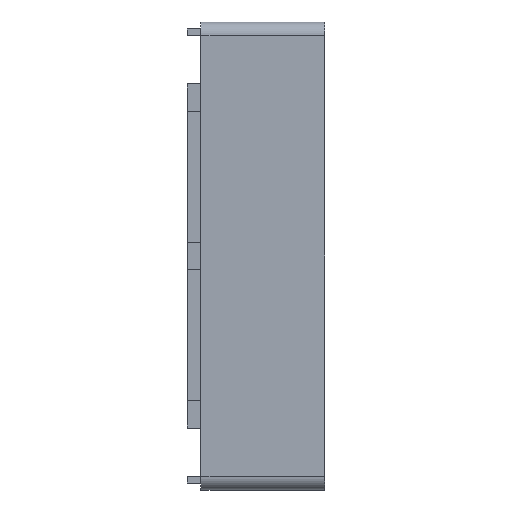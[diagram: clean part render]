
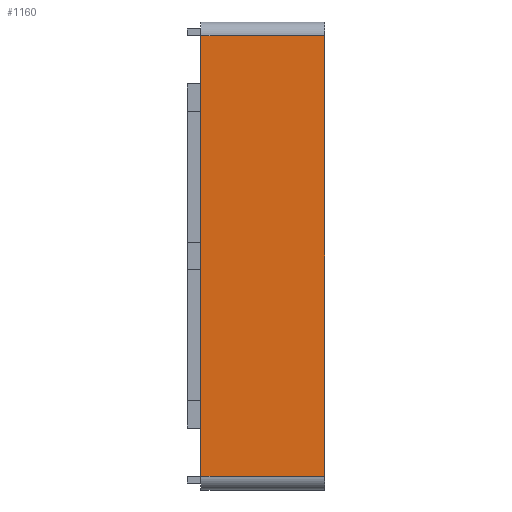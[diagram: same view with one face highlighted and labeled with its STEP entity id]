
A CAD part, left-side view. The second image highlights one B-rep face of the part: STEP entity #1160.
In plain terms, the highlighted planar face has unit normal (-1, 0, 0).
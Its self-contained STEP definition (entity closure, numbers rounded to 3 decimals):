
#79 = DIRECTION ( 'NONE',  ( 0., 0., 1. ) ) ;
#139 = ORIENTED_EDGE ( 'NONE', *, *, #5992, .F. ) ;
#364 = DIRECTION ( 'NONE',  ( 0., 1., 0. ) ) ;
#741 = DIRECTION ( 'NONE',  ( 0., -1., 0. ) ) ;
#762 = VERTEX_POINT ( 'NONE', #1386 ) ;
#1022 = DIRECTION ( 'NONE',  ( 0., 0., -1. ) ) ;
#1160 = ADVANCED_FACE ( 'NONE', ( #7700 ), #3570, .F. ) ;
#1314 = ORIENTED_EDGE ( 'NONE', *, *, #2676, .T. ) ;
#1386 = CARTESIAN_POINT ( 'NONE',  ( -21.5, 8., -16. ) ) ;
#1445 = AXIS2_PLACEMENT_3D ( 'NONE', #4244, #5651, #8377 ) ;
#1466 = LINE ( 'NONE', #6975, #4683 ) ;
#1977 = ORIENTED_EDGE ( 'NONE', *, *, #7191, .T. ) ;
#2217 = VECTOR ( 'NONE', #79, 1000. ) ;
#2290 = EDGE_LOOP ( 'NONE', ( #139, #1977, #7003, #1314 ) ) ;
#2383 = CARTESIAN_POINT ( 'NONE',  ( -21.5, 8., 16. ) ) ;
#2404 = LINE ( 'NONE', #3125, #3203 ) ;
#2676 = EDGE_CURVE ( 'NONE', #4710, #3298, #2974, .T. ) ;
#2974 = LINE ( 'NONE', #3822, #7556 ) ;
#3125 = CARTESIAN_POINT ( 'NONE',  ( -21.5, -1., -17. ) ) ;
#3203 = VECTOR ( 'NONE', #1022, 1000. ) ;
#3298 = VERTEX_POINT ( 'NONE', #2383 ) ;
#3442 = CARTESIAN_POINT ( 'NONE',  ( -21.5, -1., -16. ) ) ;
#3570 = PLANE ( 'NONE',  #1445 ) ;
#3694 = EDGE_CURVE ( 'NONE', #4710, #6702, #2404, .T. ) ;
#3822 = CARTESIAN_POINT ( 'NONE',  ( -21.5, 8., 16. ) ) ;
#4244 = CARTESIAN_POINT ( 'NONE',  ( -21.5, 8., 17. ) ) ;
#4683 = VECTOR ( 'NONE', #741, 1000. ) ;
#4710 = VERTEX_POINT ( 'NONE', #8576 ) ;
#5651 = DIRECTION ( 'NONE',  ( 1., 0., 0. ) ) ;
#5992 = EDGE_CURVE ( 'NONE', #762, #3298, #8388, .T. ) ;
#6702 = VERTEX_POINT ( 'NONE', #3442 ) ;
#6901 = CARTESIAN_POINT ( 'NONE',  ( -21.5, 8., 17. ) ) ;
#6975 = CARTESIAN_POINT ( 'NONE',  ( -21.5, 8., -16. ) ) ;
#7003 = ORIENTED_EDGE ( 'NONE', *, *, #3694, .F. ) ;
#7191 = EDGE_CURVE ( 'NONE', #762, #6702, #1466, .T. ) ;
#7556 = VECTOR ( 'NONE', #364, 1000. ) ;
#7700 = FACE_OUTER_BOUND ( 'NONE', #2290, .T. ) ;
#8377 = DIRECTION ( 'NONE',  ( 0., 0., -1. ) ) ;
#8388 = LINE ( 'NONE', #6901, #2217 ) ;
#8576 = CARTESIAN_POINT ( 'NONE',  ( -21.5, -1., 16. ) ) ;
